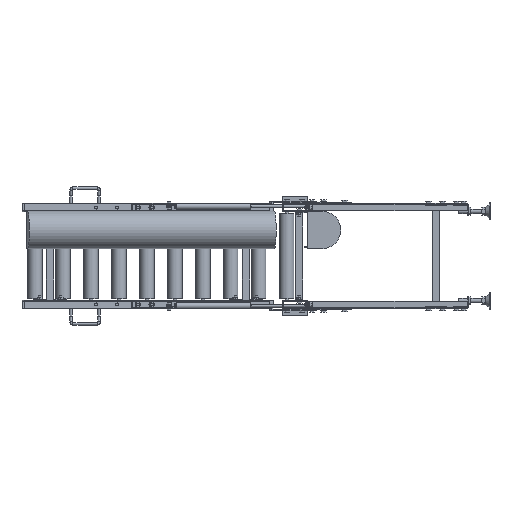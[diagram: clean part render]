
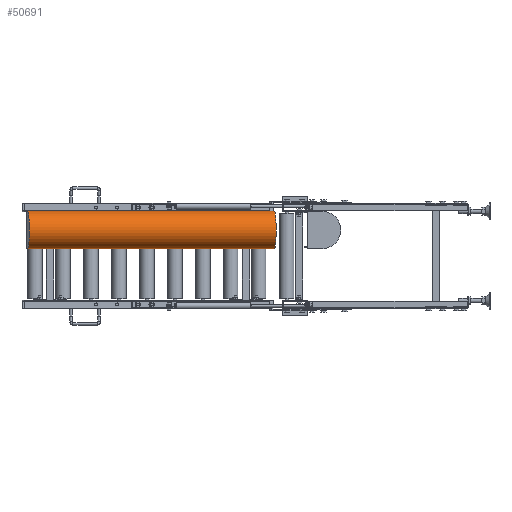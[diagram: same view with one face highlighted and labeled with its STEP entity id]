
A CAD part, left-side view. The second image highlights one B-rep face of the part: STEP entity #50691.
In plain terms, the highlighted cylindrical face has radius 66.89 mm (diameter 133.78 mm), a partial arc.
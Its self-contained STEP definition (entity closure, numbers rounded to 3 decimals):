
#5054 = EDGE_CURVE ( 'NONE', #39806, #65634, #59086, .T. ) ;
#13707 = CARTESIAN_POINT ( 'NONE',  ( -78.917, 18.539, 159.5 ) ) ;
#15958 = DIRECTION ( 'NONE',  ( -0.087, 0.996, 0. ) ) ;
#16279 = CIRCLE ( 'NONE', #38198, 66.89 ) ;
#16845 = EDGE_CURVE ( 'NONE', #58526, #48482, #62049, .T. ) ;
#17692 = AXIS2_PLACEMENT_3D ( 'NONE', #59057, #72348, #49260 ) ;
#20141 = VECTOR ( 'NONE', #31951, 1000. ) ;
#20434 = FACE_OUTER_BOUND ( 'NONE', #66589, .T. ) ;
#26355 = AXIS2_PLACEMENT_3D ( 'NONE', #66923, #15958, #43377 ) ;
#31951 = DIRECTION ( 'NONE',  ( -0.087, 0.996, 0. ) ) ;
#38198 = AXIS2_PLACEMENT_3D ( 'NONE', #69925, #70665, #46844 ) ;
#38496 = VECTOR ( 'NONE', #72439, 1000. ) ;
#39806 = VERTEX_POINT ( 'NONE', #73603 ) ;
#43377 = DIRECTION ( 'NONE',  ( 0., 0., 1. ) ) ;
#45525 = ORIENTED_EDGE ( 'NONE', *, *, #16845, .T. ) ;
#46844 = DIRECTION ( 'NONE',  ( 0., 0., 1. ) ) ;
#48482 = VERTEX_POINT ( 'NONE', #63867 ) ;
#49260 = DIRECTION ( 'NONE',  ( 0., 0., -1. ) ) ;
#49611 = CARTESIAN_POINT ( 'NONE',  ( -155.735, 897.187, 25.72 ) ) ;
#50691 = ADVANCED_FACE ( 'NONE', ( #20434 ), #61495, .T. ) ;
#58522 = EDGE_CURVE ( 'NONE', #48482, #65634, #16279, .T. ) ;
#58526 = VERTEX_POINT ( 'NONE', #13707 ) ;
#59057 = CARTESIAN_POINT ( 'NONE',  ( -78.917, 18.539, 92.61 ) ) ;
#59086 = LINE ( 'NONE', #71956, #38496 ) ;
#59460 = CIRCLE ( 'NONE', #17692, 66.89 ) ;
#60404 = CARTESIAN_POINT ( 'NONE',  ( -63.444, -158.438, 159.5 ) ) ;
#61495 = CYLINDRICAL_SURFACE ( 'NONE', #26355, 66.89 ) ;
#62049 = LINE ( 'NONE', #60404, #20141 ) ;
#62666 = ORIENTED_EDGE ( 'NONE', *, *, #58522, .T. ) ;
#63170 = ORIENTED_EDGE ( 'NONE', *, *, #65335, .F. ) ;
#63867 = CARTESIAN_POINT ( 'NONE',  ( -155.735, 897.187, 159.5 ) ) ;
#65335 = EDGE_CURVE ( 'NONE', #58526, #39806, #59460, .T. ) ;
#65634 = VERTEX_POINT ( 'NONE', #49611 ) ;
#66589 = EDGE_LOOP ( 'NONE', ( #63170, #45525, #62666, #70851 ) ) ;
#66923 = CARTESIAN_POINT ( 'NONE',  ( -63.444, -158.438, 92.61 ) ) ;
#69925 = CARTESIAN_POINT ( 'NONE',  ( -155.735, 897.187, 92.61 ) ) ;
#70665 = DIRECTION ( 'NONE',  ( 0.087, -0.996, 0. ) ) ;
#70851 = ORIENTED_EDGE ( 'NONE', *, *, #5054, .F. ) ;
#71956 = CARTESIAN_POINT ( 'NONE',  ( -63.444, -158.438, 25.72 ) ) ;
#72348 = DIRECTION ( 'NONE',  ( 0.087, -0.996, 0. ) ) ;
#72439 = DIRECTION ( 'NONE',  ( -0.087, 0.996, 0. ) ) ;
#73603 = CARTESIAN_POINT ( 'NONE',  ( -78.917, 18.539, 25.72 ) ) ;
